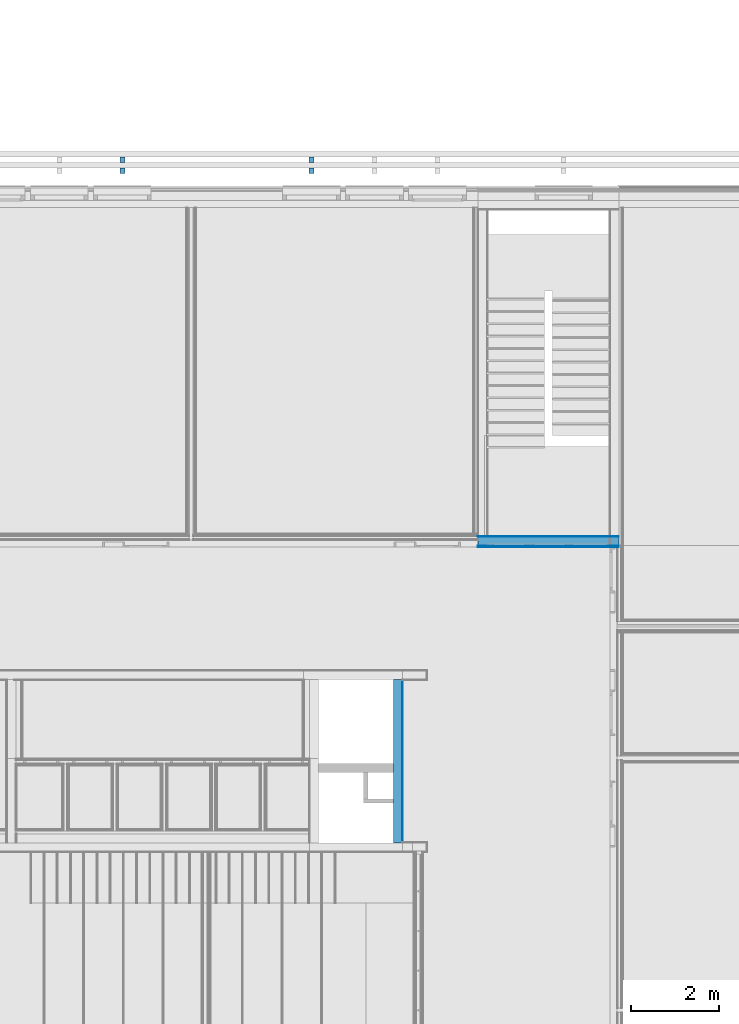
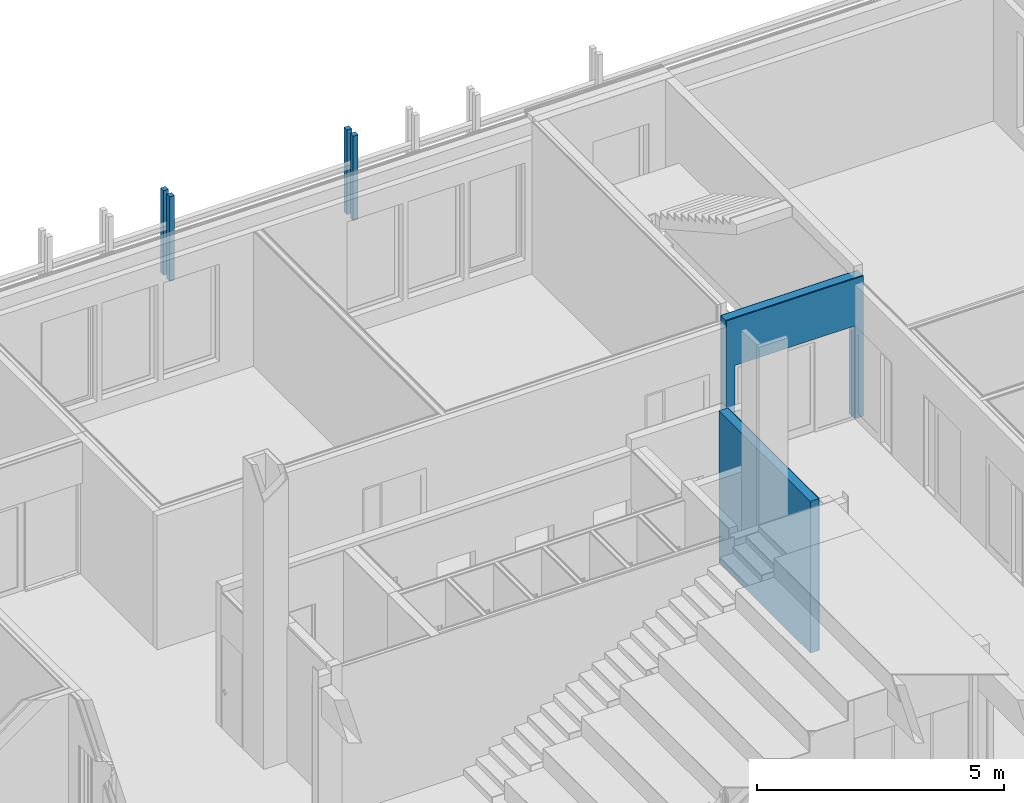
# One storey, part 102 of 139: 6 building element parts, 2 discrete accessories, 1 opening, 2 elements without a shape of their own.
"""IFC2X3 building model written with IfcOpenShell, lengths in millimetres."""

from ifc_helpers import new_model, entity, si_unit, converted_unit, derived_unit, money_unit, direction, frame, origin_with_axes, place, context, subcontext, project, spatial, faceted_brep, material, material_list, type_object, element, aggregate, save


model = new_model("IFC2X3")

# Units and contexts
model_context = context("Model", 3, precision=0.01, world=origin_with_axes(), true_north=direction((0.0, 1.0)))
body_context = subcontext(model_context, "Body", "Model", "MODEL_VIEW")
ifc_project = project(units=[si_unit("LENGTHUNIT", "METRE", prefix="MILLI"), si_unit("AREAUNIT", "SQUARE_METRE"), si_unit("VOLUMEUNIT", "CUBIC_METRE"), converted_unit("PLANEANGLEUNIT", "DEGREE", entity("IfcPlaneAngleMeasure", 0.0174532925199), si_unit("PLANEANGLEUNIT", "RADIAN"), dimensions=[0, 0, 0, 0, 0, 0, 0]), money_unit("EUR"), converted_unit("TIMEUNIT", "Year", entity("IfcTimeMeasure", 31556926.0), si_unit("TIMEUNIT", "SECOND"), dimensions=[0, 0, 1, 0, 0, 0, 0]), si_unit("MASSUNIT", "GRAM", prefix="KILO"), si_unit("THERMODYNAMICTEMPERATUREUNIT", "DEGREE_CELSIUS"), si_unit("LUMINOUSINTENSITYUNIT", "LUMEN"), si_unit("ENERGYUNIT", "JOULE", prefix="MEGA"), derived_unit("THERMALCONDUCTANCEUNIT", [(si_unit("POWERUNIT", "WATT"), 1), (si_unit("LENGTHUNIT", "METRE"), -1), (si_unit("THERMODYNAMICTEMPERATUREUNIT", "KELVIN"), -1)]), derived_unit("SPECIFICHEATCAPACITYUNIT", [(si_unit("ENERGYUNIT", "JOULE"), 1), (si_unit("MASSUNIT", "GRAM", prefix="KILO"), -1), (si_unit("THERMODYNAMICTEMPERATUREUNIT", "KELVIN"), -1)]), derived_unit("MASSDENSITYUNIT", [(si_unit("MASSUNIT", "GRAM", prefix="KILO"), 1), (si_unit("VOLUMEUNIT", "CUBIC_METRE"), -1)])], contexts=[model_context])

# Site, building, storey
site_placement = place(None, origin_with_axes())
site = spatial("IfcSite", under=ifc_project, at=site_placement, Name="Kolde pst 67a", CompositionType="ELEMENT")
building_placement = place(site_placement, origin_with_axes())
building = spatial("IfcBuilding", under=site, at=building_placement, Name="Riigigümnaasium", CompositionType="ELEMENT")
storey_placement = place(building_placement, frame((0.0, 0.0, 4600.0), z_axis=(0.0, 0.0, 1.0), x_axis=(1.0, 0.0, 0.0)))
storey = spatial("IfcBuildingStorey", under=building, at=storey_placement, Name="2. korrus", CompositionType="ELEMENT", Elevation=4600.0)

# Discrete accessories
ifc_material_1 = material(Name="_VÄLISVIIMISTLUS - sõrmjätkatud puitprussid 120x115mm, liitekohad vähemärgatavad, Platowood sõrmjätkatud kuusk või samaväärne; eeltöödeldud tuletõkkevõõbaga, tuletundlikkus B-s1, d0, Woodsafe Exterior WFX™ või samaväärne; kinnitused vastavalt EK osale")
ifc_material_list = material_list([ifc_material_1, ifc_material_1])
discrete_accessory_type = type_object("IfcDiscreteAccessoryType", Name="1+paiksekaitse 3 370 x 115")
for number, where, z_axis, x_axis in (
    (1, (45755.0059762, 61772.0001843, 2150.0), (0.0, 0.0, 1.0), (0.0, -1.0, 0.0)),
    (2, (41465.0059762, 61772.0001843, 2150.0), (0.0, 0.0, 1.0), (0.0, -1.0, 0.0)),
):
    element("IfcDiscreteAccessory", number, at=place(storey_placement, frame(where, z_axis=z_axis, x_axis=x_axis)), inside=storey, type_object=discrete_accessory_type, material=ifc_material_list, Name="Päikesevarjestus", context=body_context, shape_type="Brep", body=[
        faceted_brep([(467.0, 117.5, 0.0), (347.0, 117.5, 0.0), (347.0, 117.5, 2090.0), (467.0, 117.5, 2090.0), (467.0, 2.5, 0.0), (347.0, 2.5, 0.0), (347.0, 2.5, 2090.0), (467.0, 2.5, 2090.0)], [[[0, 1, 2, 3]], [[0, 4, 5, 1]], [[1, 5, 6, 2]], [[3, 2, 6, 7]], [[4, 0, 3, 7]], [[5, 4, 7, 6]]]),
        faceted_brep([(717.0, 117.5, 0.0), (597.0, 117.5, 0.0), (597.0, 117.5, 2090.0), (717.0, 117.5, 2090.0), (717.0, 2.5, 0.0), (597.0, 2.5, 0.0), (597.0, 2.5, 2090.0), (717.0, 2.5, 2090.0)], [[[0, 1, 2, 3]], [[0, 4, 5, 1]], [[1, 5, 6, 2]], [[3, 2, 6, 7]], [[4, 0, 3, 7]], [[5, 4, 7, 6]]]),
    ])

# Wall, opening, building element parts
wall_type_1 = type_object("IfcWallType", Name="SS-RB-20/3_+krohv+dold 240", PredefinedType="NOTDEFINED")
wall_1_placement = place(storey_placement, frame((49590.0100555, 52820.0001843, 0.0), z_axis=(0.0, 0.0, 1.0), x_axis=(1.0, 0.0, 0.0)))
wall_1 = element("IfcWall", 3, at=wall_1_placement, inside=storey, type_object=wall_type_1, Name="Sisesein")
opening_placement = place(wall_1_placement, frame((1599.98406667, 0.0, 0.0), z_axis=(0.0, 0.0, 1.0), x_axis=(1.0, 0.0, 0.0)))
element("IfcOpeningElement", 4, at=opening_placement, cuts=wall_1, Name="Kahepoolne siseuks", context=body_context, shape_type="Brep", body=[
    faceted_brep([(-1400.0, -480.0, 0.0), (-1400.0, -480.0, 2300.0), (-1400.0, 240.0, 2300.0), (-1400.0, 240.0, 0.0), (1400.0, -480.0, 0.0), (1400.0, -480.0, 2300.0), (1400.0, 240.0, 2300.0), (1400.0, 240.0, 0.0)], [[[0, 1, 2, 3]], [[0, 4, 5, 1]], [[1, 5, 6, 2]], [[3, 2, 6, 7]], [[4, 0, 3, 7]], [[5, 4, 7, 6]]]),
])
ifc_material_2 = material(Name="_VIIMISTLUSKIHT - viimistlus vastavalt SA osale")
building_element_part_1_placement = place(wall_1_placement, origin_with_axes())
building_element_part_1 = element("IfcBuildingElementPart", 5, at=building_element_part_1_placement, material=ifc_material_2, Name="_VIIMISTLUSKIHT - viimistlus vastavalt SA osale", context=body_context, shape_type="Brep", body=[
    faceted_brep([(199.984066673, 0.0, 2300.0), (199.984066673, 0.0, 0.0), (0.0, 0.0, 0.0), (0.0, 0.0, 3470.0), (3199.98406667, 0.0, 3470.0), (3199.98406667, 0.0, 0.0), (2999.98406667, 0.0, 0.0), (2999.98406667, 0.0, 2300.0), (199.984066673, -10.0, 2300.0), (199.984066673, -10.0, 0.0), (0.0, -10.0, 0.0), (0.0, -10.0, 3470.0), (3199.98406667, -10.0, 3470.0), (3199.98406667, -10.0, 0.0), (2999.98406667, -10.0, 0.0), (2999.98406667, -10.0, 2300.0)], [[[0, 1, 2, 3, 4, 5, 6, 7]], [[1, 0, 8, 9]], [[1, 9, 10, 2]], [[3, 2, 10, 11]], [[4, 3, 11, 12]], [[13, 5, 4, 12]], [[14, 6, 5, 13]], [[7, 6, 14, 15]], [[0, 7, 15, 8]], [[15, 14, 13, 12, 11, 10, 9, 8]]]),
])
ifc_material_3 = material(Name="_KANDETARIND - monteeritav raudbetoon vastavalt EK osale")
building_element_part_2_placement = place(wall_1_placement, origin_with_axes())
building_element_part_2 = element("IfcBuildingElementPart", 6, at=building_element_part_2_placement, material=ifc_material_3, Name="_KANDETARIND - monteeritav raudbetoon vastavalt EK osale", context=body_context, shape_type="Brep", body=[
    faceted_brep([(199.984066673, -10.0, 2300.0), (199.984066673, -10.0, 0.0), (0.0, -10.0, 0.0), (0.0, -10.0, 3470.0), (3199.98406667, -10.0, 3470.0), (3199.98406667, -10.0, 0.0), (2999.98406667, -10.0, 0.0), (2999.98406667, -10.0, 2300.0), (199.984066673, -210.0, 2300.0), (199.984066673, -210.0, 0.0), (0.0, -210.0, 0.0), (0.0, -210.0, 3470.0), (3199.98406667, -210.0, 3470.0), (3199.98406667, -210.0, 0.0), (2999.98406667, -210.0, 0.0), (2999.98406667, -210.0, 2300.0)], [[[0, 1, 2, 3, 4, 5, 6, 7]], [[1, 0, 8, 9]], [[1, 9, 10, 2]], [[3, 2, 10, 11]], [[4, 3, 11, 12]], [[13, 5, 4, 12]], [[14, 6, 5, 13]], [[7, 6, 14, 15]], [[0, 7, 15, 8]], [[15, 14, 13, 12, 11, 10, 9, 8]]]),
])
ifc_material_4 = material(Name="_KARKASS - eriprofiilkinnitus vastavalt sisemisele plaatviimistlusele")
building_element_part_3_placement = place(wall_1_placement, origin_with_axes())
building_element_part_3 = element("IfcBuildingElementPart", 7, at=building_element_part_3_placement, material=ifc_material_4, Name="_KARKASS - eriprofiilkinnitus vastavalt sisemisele plaatviimistlusele", context=body_context, shape_type="Brep", body=[
    faceted_brep([(199.984066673, -210.0, 2300.0), (199.984066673, -210.0, 0.0), (0.0, -210.0, 0.0), (0.0, -210.0, 3470.0), (3199.98406667, -210.0, 3470.0), (3199.98406667, -210.0, 0.0), (2999.98406667, -210.0, 0.0), (2999.98406667, -210.0, 2300.0), (199.984066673, -220.0, 2300.0), (199.984066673, -220.0, 0.0), (0.0, -220.0, 0.0), (0.0, -220.0, 3470.0), (3199.98406667, -220.0, 3470.0), (3199.98406667, -220.0, 0.0), (2999.98406667, -220.0, 0.0), (2999.98406667, -220.0, 2300.0)], [[[0, 1, 2, 3, 4, 5, 6, 7]], [[1, 0, 8, 9]], [[1, 9, 10, 2]], [[3, 2, 10, 11]], [[4, 3, 11, 12]], [[13, 5, 4, 12]], [[14, 6, 5, 13]], [[7, 6, 14, 15]], [[0, 7, 15, 8]], [[15, 14, 13, 12, 11, 10, 9, 8]]]),
])
building_element_part_4_placement = place(wall_1_placement, origin_with_axes())
building_element_part_4 = element("IfcBuildingElementPart", 8, at=building_element_part_4_placement, material=ifc_material_2, Name="_VIIMISTLUSKIHT - viimistlus vastavalt SA osale", context=body_context, shape_type="Brep", body=[
    faceted_brep([(199.984066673, -220.0, 2300.0), (199.984066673, -220.0, 0.0), (0.0, -220.0, 0.0), (0.0, -220.0, 3470.0), (3199.98406667, -220.0, 3470.0), (3199.98406667, -220.0, 0.0), (2999.98406667, -220.0, 0.0), (2999.98406667, -220.0, 2300.0), (199.984066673, -240.0, 2300.0), (199.984066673, -240.0, 0.0), (0.0, -240.0, 0.0), (0.0, -240.0, 3470.0), (3199.98406667, -240.0, 3470.0), (3199.98406667, -240.0, 0.0), (2999.98406667, -240.0, 0.0), (2999.98406667, -240.0, 2300.0)], [[[0, 1, 2, 3, 4, 5, 6, 7]], [[1, 0, 8, 9]], [[1, 9, 10, 2]], [[3, 2, 10, 11]], [[4, 3, 11, 12]], [[13, 5, 4, 12]], [[14, 6, 5, 13]], [[7, 6, 14, 15]], [[0, 7, 15, 8]], [[15, 14, 13, 12, 11, 10, 9, 8]]]),
])
aggregate(wall_1, [building_element_part_1, building_element_part_2, building_element_part_3, building_element_part_4])

# Wall, building element parts
wall_type_2 = type_object("IfcWallType", Name="SS-RB-20/5_+1 plaat 215", PredefinedType="NOTDEFINED")
wall_2_placement = place(storey_placement, frame((47874.9854607, 49569.9999599, 0.0), z_axis=(0.0, 0.0, 1.0), x_axis=(0.0, -1.0, 0.0)))
wall_2 = element("IfcWall", 9, at=wall_2_placement, inside=storey, type_object=wall_type_2, Name="Sisesein")
building_element_part_5_placement = place(wall_2_placement, origin_with_axes())
building_element_part_5 = element("IfcBuildingElementPart", 10, at=building_element_part_5_placement, material=ifc_material_2, Name="_VIIMISTLUSKIHT - viimistlus vastavalt SA osale", context=body_context, shape_type="Brep", body=[
    faceted_brep([(3700.0, 0.0, 3750.0), (3700.0, 15.0, 3750.0), (0.0, 15.0, 3750.0), (0.0, 0.0, 3750.0), (3700.0, 0.0, 0.0), (3700.0, 15.0, 0.0), (0.0, 15.0, 0.0), (0.0, 0.0, 0.0)], [[[0, 1, 2, 3]], [[0, 4, 5, 1]], [[1, 5, 6, 2]], [[3, 2, 6, 7]], [[4, 0, 3, 7]], [[5, 4, 7, 6]]]),
])
building_element_part_6_placement = place(wall_2_placement, origin_with_axes())
building_element_part_6 = element("IfcBuildingElementPart", 11, at=building_element_part_6_placement, material=ifc_material_3, Name="_KANDETARIND - monteeritav raudbetoon vastavalt EK osale", context=body_context, shape_type="Brep", body=[
    faceted_brep([(3700.0, -200.0, 3750.0), (3700.0, 0.0, 3750.0), (0.0, 0.0, 3750.0), (0.0, -200.0, 3750.0), (3700.0, -200.0, 0.0), (3700.0, 0.0, 0.0), (0.0, 0.0, 0.0), (0.0, -200.0, 0.0)], [[[0, 1, 2, 3]], [[0, 4, 5, 1]], [[1, 5, 6, 2]], [[3, 2, 6, 7]], [[4, 0, 3, 7]], [[5, 4, 7, 6]]]),
])
aggregate(wall_2, [building_element_part_5, building_element_part_6])

save(model, "model.ifc")
